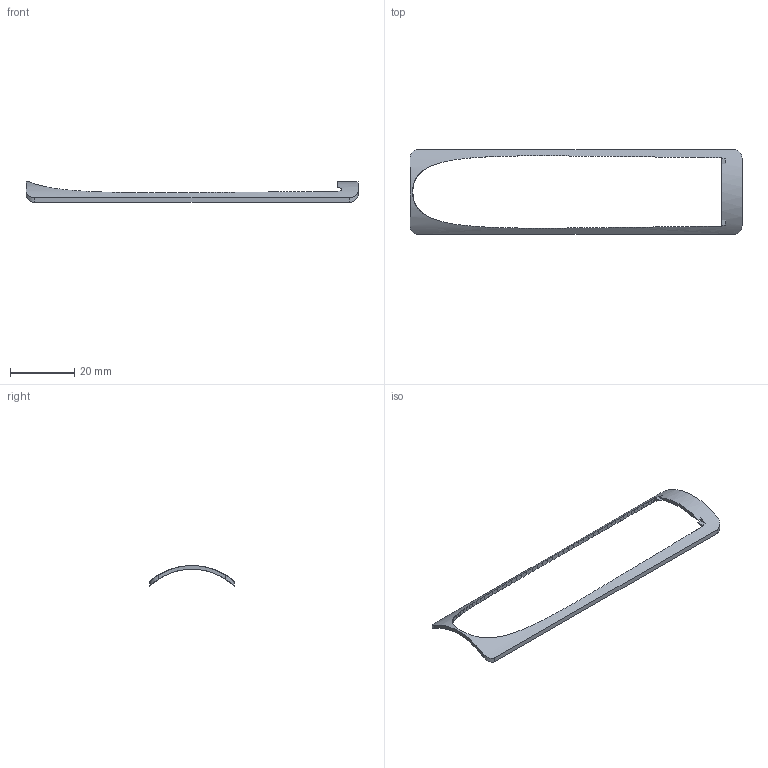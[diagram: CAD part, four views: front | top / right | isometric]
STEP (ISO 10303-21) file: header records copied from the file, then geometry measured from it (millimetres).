
FILE_DESCRIPTION(('SkyG Speed 90B - revision C6B-6 - 2026-10-08','WF-wing-window-filler'),'2;1');
FILE_NAME('WF-wing-window-filler_C6B-6','2026-10-08T12:31:00',('Author'),( 'Open CASCADE'),'Open CASCADE STEP processor 7.9','Open CASCADE 7.9' ,'Unknown');
FILE_SCHEMA(('AUTOMOTIVE_DESIGN { 1 0 10303 214 1 1 1 1 }'));
Length unit declared in the file: millimetre
Products named in the file (1): WF-wing-window-filler C6B-6
Bounding box: 103.4 x 26.4 x 6.47 mm (x, y, z)
Volume: 922.1 mm3; surface area: 2347.7 mm2
Topology: 1 solids, 1 shells, 141 faces, 416 edges, 277 vertices
Faces by surface type: plane 123, bspline 12, cylinder 6
Entity records: 24694 total; most frequent: CARTESIAN_POINT 16867, DIRECTION 1386, ORIENTED_EDGE 832, PCURVE 832, DEFINITIONAL_REPRESENTATION 832, ELLIPSE 476, EDGE_CURVE 416, SURFACE_CURVE 416
